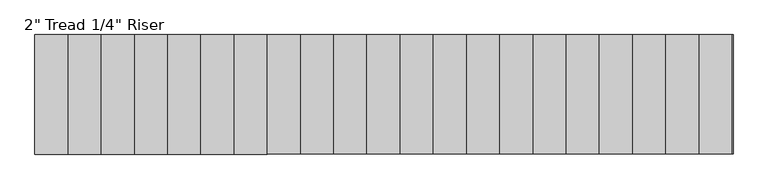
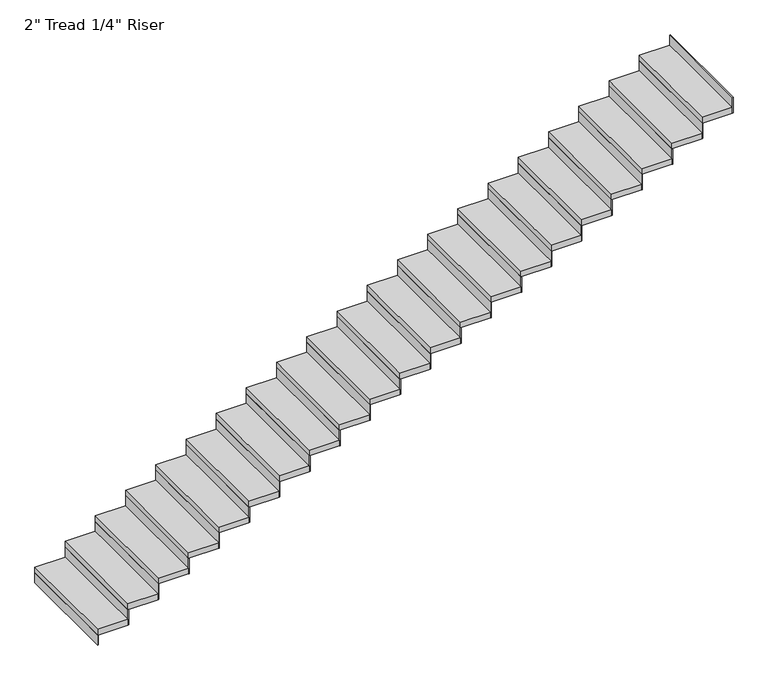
"""IFC4 building model written with IfcOpenShell, lengths in millimetres: stair flight geometry."""

from ifc_helpers import new_model, si_unit, frame, origin, origin_with_axes, place, context, project, spatial, polyline, outline, extrude, source, transform, mapped, element, save


def stair_flight_1eaf134b(model_context):
    return source(origin(), model_context, "Body", "SweptSolid", [
        extrude(outline(polyline([(-12451.1156525, 50501.9156164), (-12457.4656525, 50501.9156164), (-12457.4656525, 51416.3156164), (-12451.1156525, 51416.3156164), (-12451.1156525, 50501.9156164)])), origin_with_axes(), (0.0, 0.0, 1.0), 87.7454545),
        extrude(outline(polyline([(-12203.4656525, 51416.3156164), (-12203.4656525, 50501.9156164), (-12457.4656525, 50501.9156164), (-12457.4656525, 51416.3156164), (-12203.4656525, 51416.3156164)])), frame((0.0, 0.0, 87.7454545), z_axis=(0.0, 0.0, 1.0), x_axis=(1.0, 0.0, 0.0)), (0.0, 0.0, 1.0), 50.8),
        extrude(outline(polyline([(-12197.1156525, 50501.9156164), (-12203.4656525, 50501.9156164), (-12203.4656525, 51416.3156164), (-12197.1156525, 51416.3156164), (-12197.1156525, 50501.9156164)])), frame((0.0, 0.0, 87.7454545), z_axis=(0.0, 0.0, 1.0), x_axis=(1.0, 0.0, 0.0)), (0.0, 0.0, 1.0), 138.5454545),
        extrude(outline(polyline([(-11949.4656525, 51416.3156164), (-11949.4656525, 50501.9156164), (-12203.4656525, 50501.9156164), (-12203.4656525, 51416.3156164), (-11949.4656525, 51416.3156164)])), frame((0.0, 0.0, 226.2909091), z_axis=(0.0, 0.0, 1.0), x_axis=(1.0, 0.0, 0.0)), (0.0, 0.0, 1.0), 50.8),
        extrude(outline(polyline([(-11943.1156525, 50501.9156164), (-11949.4656525, 50501.9156164), (-11949.4656525, 51416.3156164), (-11943.1156525, 51416.3156164), (-11943.1156525, 50501.9156164)])), frame((0.0, 0.0, 226.2909091), z_axis=(0.0, 0.0, 1.0), x_axis=(1.0, 0.0, 0.0)), (0.0, 0.0, 1.0), 138.5454545),
        extrude(outline(polyline([(-11695.4656525, 51416.3156164), (-11695.4656525, 50501.9156164), (-11949.4656525, 50501.9156164), (-11949.4656525, 51416.3156164), (-11695.4656525, 51416.3156164)])), frame((0.0, 0.0, 364.8363636), z_axis=(0.0, 0.0, 1.0), x_axis=(1.0, 0.0, 0.0)), (0.0, 0.0, 1.0), 50.8),
        extrude(outline(polyline([(-11689.1156525, 50501.9156164), (-11695.4656525, 50501.9156164), (-11695.4656525, 51416.3156164), (-11689.1156525, 51416.3156164), (-11689.1156525, 50501.9156164)])), frame((0.0, 0.0, 364.8363636), z_axis=(0.0, 0.0, 1.0), x_axis=(1.0, 0.0, 0.0)), (0.0, 0.0, 1.0), 138.5454545),
        extrude(outline(polyline([(-11441.4656525, 51416.3156164), (-11441.4656525, 50501.9156164), (-11695.4656525, 50501.9156164), (-11695.4656525, 51416.3156164), (-11441.4656525, 51416.3156164)])), frame((0.0, 0.0, 503.3818182), z_axis=(0.0, 0.0, 1.0), x_axis=(1.0, 0.0, 0.0)), (0.0, 0.0, 1.0), 50.8),
        extrude(outline(polyline([(-11435.1156525, 50501.9156164), (-11441.4656525, 50501.9156164), (-11441.4656525, 51416.3156164), (-11435.1156525, 51416.3156164), (-11435.1156525, 50501.9156164)])), frame((0.0, 0.0, 503.3818182), z_axis=(0.0, 0.0, 1.0), x_axis=(1.0, 0.0, 0.0)), (0.0, 0.0, 1.0), 138.5454545),
        extrude(outline(polyline([(-11187.4656525, 51416.3156164), (-11187.4656525, 50501.9156164), (-11441.4656525, 50501.9156164), (-11441.4656525, 51416.3156164), (-11187.4656525, 51416.3156164)])), frame((0.0, 0.0, 641.9272727), z_axis=(0.0, 0.0, 1.0), x_axis=(1.0, 0.0, 0.0)), (0.0, 0.0, 1.0), 50.8),
        extrude(outline(polyline([(-11181.1156525, 50501.9156164), (-11187.4656525, 50501.9156164), (-11187.4656525, 51416.3156164), (-11181.1156525, 51416.3156164), (-11181.1156525, 50501.9156164)])), frame((0.0, 0.0, 641.9272727), z_axis=(0.0, 0.0, 1.0), x_axis=(1.0, 0.0, 0.0)), (0.0, 0.0, 1.0), 138.5454545),
        extrude(outline(polyline([(-10933.4656525, 51416.3156164), (-10933.4656525, 50501.9156164), (-11187.4656525, 50501.9156164), (-11187.4656525, 51416.3156164), (-10933.4656525, 51416.3156164)])), frame((0.0, 0.0, 780.4727273), z_axis=(0.0, 0.0, 1.0), x_axis=(1.0, 0.0, 0.0)), (0.0, 0.0, 1.0), 50.8),
        extrude(outline(polyline([(-10927.1156525, 50501.9156164), (-10933.4656525, 50501.9156164), (-10933.4656525, 51416.3156164), (-10927.1156525, 51416.3156164), (-10927.1156525, 50501.9156164)])), frame((0.0, 0.0, 780.4727273), z_axis=(0.0, 0.0, 1.0), x_axis=(1.0, 0.0, 0.0)), (0.0, 0.0, 1.0), 138.5454545),
        extrude(outline(polyline([(-10679.4656525, 51416.3156164), (-10679.4656525, 50501.9156164), (-10933.4656525, 50501.9156164), (-10933.4656525, 51416.3156164), (-10679.4656525, 51416.3156164)])), frame((0.0, 0.0, 919.0181818), z_axis=(0.0, 0.0, 1.0), x_axis=(1.0, 0.0, 0.0)), (0.0, 0.0, 1.0), 50.8),
        extrude(outline(polyline([(-10673.1156525, 50501.9156164), (-10679.4656525, 50501.9156164), (-10679.4656525, 51416.3156164), (-10673.1156525, 51416.3156164), (-10673.1156525, 50501.9156164)])), frame((0.0, 0.0, 919.0181818), z_axis=(0.0, 0.0, 1.0), x_axis=(1.0, 0.0, 0.0)), (0.0, 0.0, 1.0), 138.5454545),
        extrude(outline(polyline([(-10425.4656525, 51416.3156164), (-10425.4656525, 50501.9156164), (-10679.4656525, 50501.9156164), (-10679.4656525, 51416.3156164), (-10425.4656525, 51416.3156164)])), frame((0.0, 0.0, 1057.5636364), z_axis=(0.0, 0.0, 1.0), x_axis=(1.0, 0.0, 0.0)), (0.0, 0.0, 1.0), 50.8),
        extrude(outline(polyline([(-10419.1156525, 50501.9156164), (-10425.4656525, 50501.9156164), (-10425.4656525, 51416.3156164), (-10419.1156525, 51416.3156164), (-10419.1156525, 50501.9156164)])), frame((0.0, 0.0, 1057.5636364), z_axis=(0.0, 0.0, 1.0), x_axis=(1.0, 0.0, 0.0)), (0.0, 0.0, 1.0), 138.5454545),
        extrude(outline(polyline([(-10171.4656525, 51416.3156164), (-10171.4656525, 50501.9156164), (-10425.4656525, 50501.9156164), (-10425.4656525, 51416.3156164), (-10171.4656525, 51416.3156164)])), frame((0.0, 0.0, 1196.1090909), z_axis=(0.0, 0.0, 1.0), x_axis=(1.0, 0.0, 0.0)), (0.0, 0.0, 1.0), 50.8),
        extrude(outline(polyline([(-10165.1156525, 50501.9156164), (-10171.4656525, 50501.9156164), (-10171.4656525, 51416.3156164), (-10165.1156525, 51416.3156164), (-10165.1156525, 50501.9156164)])), frame((0.0, 0.0, 1196.1090909), z_axis=(0.0, 0.0, 1.0), x_axis=(1.0, 0.0, 0.0)), (0.0, 0.0, 1.0), 138.5454545),
        extrude(outline(polyline([(-9917.4656525, 51416.3156164), (-9917.4656525, 50501.9156164), (-10171.4656525, 50501.9156164), (-10171.4656525, 51416.3156164), (-9917.4656525, 51416.3156164)])), frame((0.0, 0.0, 1334.6545455), z_axis=(0.0, 0.0, 1.0), x_axis=(1.0, 0.0, 0.0)), (0.0, 0.0, 1.0), 50.8),
        extrude(outline(polyline([(-9911.1156525, 50501.9156164), (-9917.4656525, 50501.9156164), (-9917.4656525, 51416.3156164), (-9911.1156525, 51416.3156164), (-9911.1156525, 50501.9156164)])), frame((0.0, 0.0, 1334.6545455), z_axis=(0.0, 0.0, 1.0), x_axis=(1.0, 0.0, 0.0)), (0.0, 0.0, 1.0), 138.5454545),
        extrude(outline(polyline([(-9663.4656525, 51416.3156164), (-9663.4656525, 50501.9156164), (-9917.4656525, 50501.9156164), (-9917.4656525, 51416.3156164), (-9663.4656525, 51416.3156164)])), frame((0.0, 0.0, 1473.2), z_axis=(0.0, 0.0, 1.0), x_axis=(1.0, 0.0, 0.0)), (0.0, 0.0, 1.0), 50.8),
        extrude(outline(polyline([(-9657.1156525, 50501.9156164), (-9663.4656525, 50501.9156164), (-9663.4656525, 51416.3156164), (-9657.1156525, 51416.3156164), (-9657.1156525, 50501.9156164)])), frame((0.0, 0.0, 1473.2), z_axis=(0.0, 0.0, 1.0), x_axis=(1.0, 0.0, 0.0)), (0.0, 0.0, 1.0), 138.5454545),
        extrude(outline(polyline([(-9409.4656525, 51416.3156164), (-9409.4656525, 50501.9156164), (-9663.4656525, 50501.9156164), (-9663.4656525, 51416.3156164), (-9409.4656525, 51416.3156164)])), frame((0.0, 0.0, 1611.7454545), z_axis=(0.0, 0.0, 1.0), x_axis=(1.0, 0.0, 0.0)), (0.0, 0.0, 1.0), 50.8),
        extrude(outline(polyline([(-9403.1156525, 50501.9156164), (-9409.4656525, 50501.9156164), (-9409.4656525, 51416.3156164), (-9403.1156525, 51416.3156164), (-9403.1156525, 50501.9156164)])), frame((0.0, 0.0, 1611.7454545), z_axis=(0.0, 0.0, 1.0), x_axis=(1.0, 0.0, 0.0)), (0.0, 0.0, 1.0), 138.5454545),
        extrude(outline(polyline([(-9155.4656525, 51416.3156164), (-9155.4656525, 50501.9156164), (-9409.4656525, 50501.9156164), (-9409.4656525, 51416.3156164), (-9155.4656525, 51416.3156164)])), frame((0.0, 0.0, 1750.2909091), z_axis=(0.0, 0.0, 1.0), x_axis=(1.0, 0.0, 0.0)), (0.0, 0.0, 1.0), 50.8),
        extrude(outline(polyline([(-9149.1156525, 50501.9156164), (-9155.4656525, 50501.9156164), (-9155.4656525, 51416.3156164), (-9149.1156525, 51416.3156164), (-9149.1156525, 50501.9156164)])), frame((0.0, 0.0, 1750.2909091), z_axis=(0.0, 0.0, 1.0), x_axis=(1.0, 0.0, 0.0)), (0.0, 0.0, 1.0), 138.5454545),
        extrude(outline(polyline([(-8901.4656525, 51416.3156164), (-8901.4656525, 50501.9156164), (-9155.4656525, 50501.9156164), (-9155.4656525, 51416.3156164), (-8901.4656525, 51416.3156164)])), frame((0.0, 0.0, 1888.8363636), z_axis=(0.0, 0.0, 1.0), x_axis=(1.0, 0.0, 0.0)), (0.0, 0.0, 1.0), 50.8),
        extrude(outline(polyline([(-8895.1156525, 50501.9156164), (-8901.4656525, 50501.9156164), (-8901.4656525, 51416.3156164), (-8895.1156525, 51416.3156164), (-8895.1156525, 50501.9156164)])), frame((0.0, 0.0, 1888.8363636), z_axis=(0.0, 0.0, 1.0), x_axis=(1.0, 0.0, 0.0)), (0.0, 0.0, 1.0), 138.5454545),
        extrude(outline(polyline([(-8647.4656525, 51416.3156164), (-8647.4656525, 50501.9156164), (-8901.4656525, 50501.9156164), (-8901.4656525, 51416.3156164), (-8647.4656525, 51416.3156164)])), frame((0.0, 0.0, 2027.3818182), z_axis=(0.0, 0.0, 1.0), x_axis=(1.0, 0.0, 0.0)), (0.0, 0.0, 1.0), 50.8),
        extrude(outline(polyline([(-8641.1156525, 50501.9156164), (-8647.4656525, 50501.9156164), (-8647.4656525, 51416.3156164), (-8641.1156525, 51416.3156164), (-8641.1156525, 50501.9156164)])), frame((0.0, 0.0, 2027.3818182), z_axis=(0.0, 0.0, 1.0), x_axis=(1.0, 0.0, 0.0)), (0.0, 0.0, 1.0), 138.5454545),
        extrude(outline(polyline([(-8393.4656525, 51416.3156164), (-8393.4656525, 50501.9156164), (-8647.4656525, 50501.9156164), (-8647.4656525, 51416.3156164), (-8393.4656525, 51416.3156164)])), frame((0.0, 0.0, 2165.9272727), z_axis=(0.0, 0.0, 1.0), x_axis=(1.0, 0.0, 0.0)), (0.0, 0.0, 1.0), 50.8),
        extrude(outline(polyline([(-8387.1156525, 50501.9156164), (-8393.4656525, 50501.9156164), (-8393.4656525, 51416.3156164), (-8387.1156525, 51416.3156164), (-8387.1156525, 50501.9156164)])), frame((0.0, 0.0, 2165.9272727), z_axis=(0.0, 0.0, 1.0), x_axis=(1.0, 0.0, 0.0)), (0.0, 0.0, 1.0), 138.5454545),
        extrude(outline(polyline([(-8139.4656525, 51416.3156164), (-8139.4656525, 50501.9156164), (-8393.4656525, 50501.9156164), (-8393.4656525, 51416.3156164), (-8139.4656525, 51416.3156164)])), frame((0.0, 0.0, 2304.4727273), z_axis=(0.0, 0.0, 1.0), x_axis=(1.0, 0.0, 0.0)), (0.0, 0.0, 1.0), 50.8),
        extrude(outline(polyline([(-8133.1156525, 50501.9156164), (-8139.4656525, 50501.9156164), (-8139.4656525, 51416.3156164), (-8133.1156525, 51416.3156164), (-8133.1156525, 50501.9156164)])), frame((0.0, 0.0, 2304.4727273), z_axis=(0.0, 0.0, 1.0), x_axis=(1.0, 0.0, 0.0)), (0.0, 0.0, 1.0), 138.5454545),
        extrude(outline(polyline([(-7885.4656525, 51416.3156164), (-7885.4656525, 50501.9156164), (-8139.4656525, 50501.9156164), (-8139.4656525, 51416.3156164), (-7885.4656525, 51416.3156164)])), frame((0.0, 0.0, 2443.0181818), z_axis=(0.0, 0.0, 1.0), x_axis=(1.0, 0.0, 0.0)), (0.0, 0.0, 1.0), 50.8),
        extrude(outline(polyline([(-7879.1156525, 50501.9156164), (-7885.4656525, 50501.9156164), (-7885.4656525, 51416.3156164), (-7879.1156525, 51416.3156164), (-7879.1156525, 50501.9156164)])), frame((0.0, 0.0, 2443.0181818), z_axis=(0.0, 0.0, 1.0), x_axis=(1.0, 0.0, 0.0)), (0.0, 0.0, 1.0), 138.5454545),
        extrude(outline(polyline([(-7631.4656525, 51416.3156164), (-7631.4656525, 50501.9156164), (-7885.4656525, 50501.9156164), (-7885.4656525, 51416.3156164), (-7631.4656525, 51416.3156164)])), frame((0.0, 0.0, 2581.5636364), z_axis=(0.0, 0.0, 1.0), x_axis=(1.0, 0.0, 0.0)), (0.0, 0.0, 1.0), 50.8),
        extrude(outline(polyline([(-7625.1156525, 50501.9156164), (-7631.4656525, 50501.9156164), (-7631.4656525, 51416.3156164), (-7625.1156525, 51416.3156164), (-7625.1156525, 50501.9156164)])), frame((0.0, 0.0, 2581.5636364), z_axis=(0.0, 0.0, 1.0), x_axis=(1.0, 0.0, 0.0)), (0.0, 0.0, 1.0), 138.5454545),
        extrude(outline(polyline([(-7377.4656525, 51416.3156164), (-7377.4656525, 50501.9156164), (-7631.4656525, 50501.9156164), (-7631.4656525, 51416.3156164), (-7377.4656525, 51416.3156164)])), frame((0.0, 0.0, 2720.1090909), z_axis=(0.0, 0.0, 1.0), x_axis=(1.0, 0.0, 0.0)), (0.0, 0.0, 1.0), 50.8),
        extrude(outline(polyline([(-7371.1156525, 50501.9156164), (-7377.4656525, 50501.9156164), (-7377.4656525, 51416.3156164), (-7371.1156525, 51416.3156164), (-7371.1156525, 50501.9156164)])), frame((0.0, 0.0, 2720.1090909), z_axis=(0.0, 0.0, 1.0), x_axis=(1.0, 0.0, 0.0)), (0.0, 0.0, 1.0), 138.5454545),
        extrude(outline(polyline([(-7117.1156525, 50501.9156164), (-7123.4656525, 50501.9156164), (-7123.4656525, 51416.3156164), (-7117.1156525, 51416.3156164), (-7117.1156525, 50501.9156164)])), frame((0.0, 0.0, 2858.6545455), z_axis=(0.0, 0.0, 1.0), x_axis=(1.0, 0.0, 0.0)), (0.0, 0.0, 1.0), 138.5454545),
        extrude(outline(polyline([(-7123.4656525, 51416.3156164), (-7123.4656525, 50501.9156164), (-7377.4656525, 50501.9156164), (-7377.4656525, 51416.3156164), (-7123.4656525, 51416.3156164)])), frame((0.0, 0.0, 2858.6545455), z_axis=(0.0, 0.0, 1.0), x_axis=(1.0, 0.0, 0.0)), (0.0, 0.0, 1.0), 50.8),
    ])


if __name__ == "__main__":
    model = new_model("IFC4")
    model_context = context("Model", 3, world=origin())
    ifc_project = project(units=[si_unit("LENGTHUNIT", "METRE", prefix="MILLI")], contexts=[model_context])
    site = spatial("IfcSite", under=ifc_project)
    building = spatial("IfcBuilding", under=site)
    placement = place(None, origin())
    stair_flight_shape = stair_flight_1eaf134b(model_context)
    element("IfcStairFlight", 1, ObjectType="2\" Tread 1/4\" Riser", at=placement, inside=building, context=model_context, shape_type="MappedRepresentation", body=[
        mapped(stair_flight_shape, transform((0.0, 0.0, 0.0), x_axis=(1.0, 0.0, 0.0), y_axis=(0.0, 1.0, 0.0), z_axis=(0.0, 0.0, 1.0))),
    ])
    save(model, "model.ifc")
